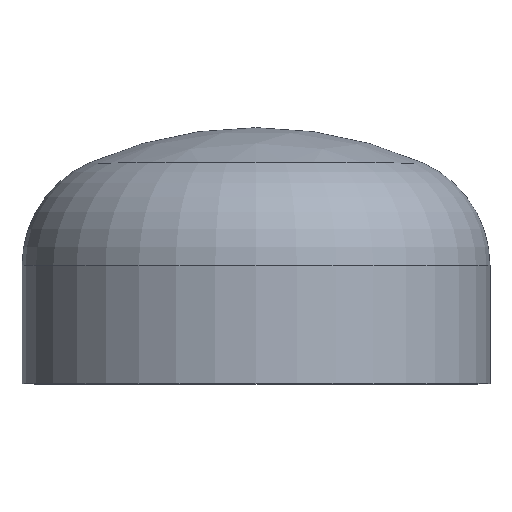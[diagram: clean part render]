
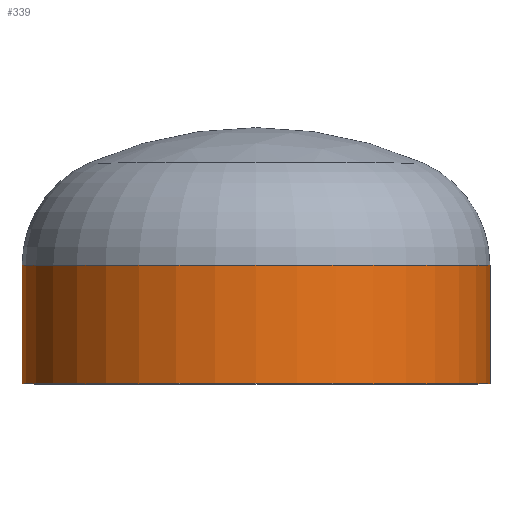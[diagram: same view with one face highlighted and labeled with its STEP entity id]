
A CAD part, top view. The second image highlights one B-rep face of the part: STEP entity #339.
In plain terms, the highlighted cylindrical face has radius 177.8 mm (diameter 355.6 mm), a partial arc.
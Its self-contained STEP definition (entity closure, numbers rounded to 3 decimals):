
#4 = AXIS2_PLACEMENT_3D ( 'NONE', #384, #295, #168 ) ;
#31 = AXIS2_PLACEMENT_3D ( 'NONE', #100, #92, #99 ) ;
#57 = EDGE_CURVE ( 'NONE', #71, #76, #106, .T. ) ;
#71 = VERTEX_POINT ( 'NONE', #203 ) ;
#76 = VERTEX_POINT ( 'NONE', #142 ) ;
#90 = ORIENTED_EDGE ( 'NONE', *, *, #318, .T. ) ;
#92 = DIRECTION ( 'NONE',  ( 0., -1., 0. ) ) ;
#99 = DIRECTION ( 'NONE',  ( 1., 0., 0. ) ) ;
#100 = CARTESIAN_POINT ( 'NONE',  ( 0., 0., 0. ) ) ;
#106 = LINE ( 'NONE', #188, #397 ) ;
#117 = DIRECTION ( 'NONE',  ( 0., -1., 0. ) ) ;
#118 = AXIS2_PLACEMENT_3D ( 'NONE', #386, #219, #411 ) ;
#120 = VECTOR ( 'NONE', #117, 1000. ) ;
#122 = CARTESIAN_POINT ( 'NONE',  ( -177.8, 0., 0. ) ) ;
#131 = ORIENTED_EDGE ( 'NONE', *, *, #323, .F. ) ;
#142 = CARTESIAN_POINT ( 'NONE',  ( 177.8, 0., 0. ) ) ;
#168 = DIRECTION ( 'NONE',  ( 1., 0., 0. ) ) ;
#188 = CARTESIAN_POINT ( 'NONE',  ( 177.8, 0., 0. ) ) ;
#195 = CIRCLE ( 'NONE', #31, 177.8 ) ;
#203 = CARTESIAN_POINT ( 'NONE',  ( 177.8, 90., 0. ) ) ;
#208 = CARTESIAN_POINT ( 'NONE',  ( -177.8, 0., 0. ) ) ;
#217 = VERTEX_POINT ( 'NONE', #208 ) ;
#219 = DIRECTION ( 'NONE',  ( 0., -1., 0. ) ) ;
#234 = ORIENTED_EDGE ( 'NONE', *, *, #57, .F. ) ;
#241 = DIRECTION ( 'NONE',  ( 0., -1., 0. ) ) ;
#242 = CIRCLE ( 'NONE', #118, 177.8 ) ;
#249 = ORIENTED_EDGE ( 'NONE', *, *, #393, .T. ) ;
#255 = CYLINDRICAL_SURFACE ( 'NONE', #4, 177.8 ) ;
#262 = FACE_OUTER_BOUND ( 'NONE', #406, .T. ) ;
#288 = VERTEX_POINT ( 'NONE', #376 ) ;
#295 = DIRECTION ( 'NONE',  ( 0., -1., 0. ) ) ;
#318 = EDGE_CURVE ( 'NONE', #288, #217, #347, .T. ) ;
#323 = EDGE_CURVE ( 'NONE', #76, #217, #195, .T. ) ;
#339 = ADVANCED_FACE ( 'NONE', ( #262 ), #255, .T. ) ;
#347 = LINE ( 'NONE', #122, #120 ) ;
#376 = CARTESIAN_POINT ( 'NONE',  ( -177.8, 90., 0. ) ) ;
#384 = CARTESIAN_POINT ( 'NONE',  ( 0., 0., 0. ) ) ;
#386 = CARTESIAN_POINT ( 'NONE',  ( 0., 90., 0. ) ) ;
#393 = EDGE_CURVE ( 'NONE', #71, #288, #242, .T. ) ;
#397 = VECTOR ( 'NONE', #241, 1000. ) ;
#406 = EDGE_LOOP ( 'NONE', ( #249, #90, #131, #234 ) ) ;
#411 = DIRECTION ( 'NONE',  ( 1., 0., 0. ) ) ;
